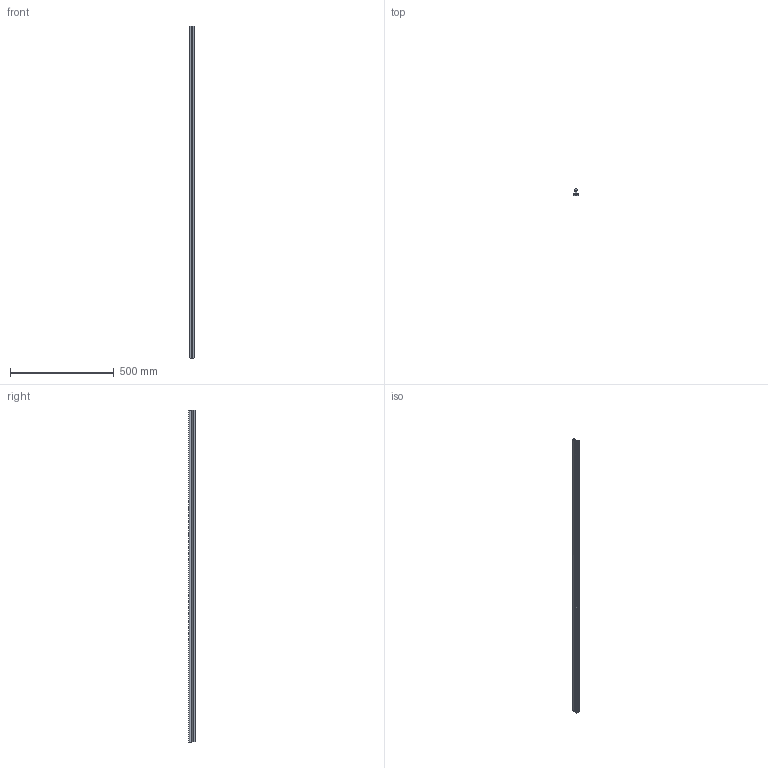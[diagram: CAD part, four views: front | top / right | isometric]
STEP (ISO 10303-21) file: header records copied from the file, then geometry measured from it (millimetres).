
FILE_DESCRIPTION (( 'STEP AP203' ), '1' );
FILE_NAME ('LFS-12-11_-_LFS-12-11 L=1598 - ArtNr 220002 1598.step', '2015-05-04T10:55:57', ( '' ), ( '' ), 'SwSTEP 2.0', 'SolidWorks 2014', '' );
FILE_SCHEMA (( 'CONFIG_CONTROL_DESIGN' ));
Length unit declared in the file: millimetre
Products named in the file (1): LFS-12-11_-_LFS-12-11 L=1598 - ArtNr 220002 1598
Bounding box: 20 x 31 x 1600 mm (x, y, z)
Volume: 483512.1 mm3; surface area: 216309.7 mm2
Topology: 1 solids, 1 shells, 1102 faces, 2952 edges, 1882 vertices
Faces by surface type: cylinder 527, plane 511, cone 32, torus 32
Full cylindrical faces by diameter (mm): 7 x32, 8 x32, 12 x1
Entity records: 35332 total; most frequent: CARTESIAN_POINT 10542, ORIENTED_EDGE 5516, DIRECTION 4485, EDGE_CURVE 2758, VERTEX_POINT 1817, AXIS2_PLACEMENT_3D 1520, VECTOR 1445, LINE 1445
